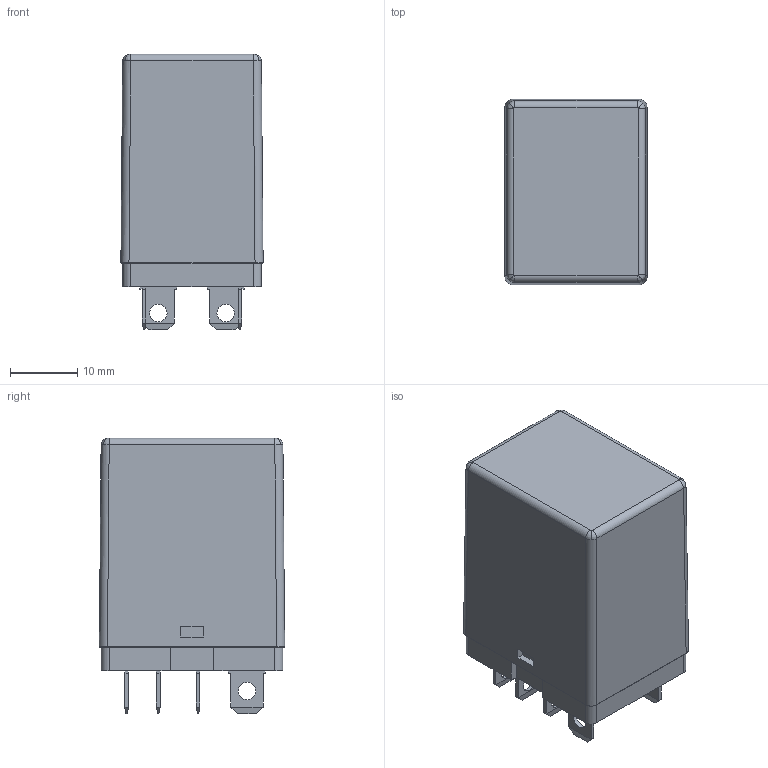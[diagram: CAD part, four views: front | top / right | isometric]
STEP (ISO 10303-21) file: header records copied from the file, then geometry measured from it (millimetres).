
FILE_DESCRIPTION(/* description */ ('STEP AP214'),/* implementation_level */ '2;1');
FILE_NAME(/* name */ 'I:\TI\Inventor\Panelen\Algemeen\Relais\Smitt relays 3D files (03-06-2021)\L2\L2.stp',/* time_stamp */ '2021-06-03T15:51:45+02:00',/* author */ ('nbinnendijk'),/* organization */ ('Mors Smitt'),/* preprocessor_version */ 'ST-DEVELOPER v18',/* originating_system */ 'Autodesk Inventor 2020',/* authorisation */ '');
FILE_SCHEMA (('AUTOMOTIVE_DESIGN { 1 0 10303 214 3 1 1 }'));
Length unit declared in the file: millimetre
Products named in the file (1): L2
Bounding box: 21.1 x 27.5 x 40.9 mm (x, y, z)
Volume: 19394.5 mm3; surface area: 4993.2 mm2
Topology: 1 solids, 2 shells, 196 faces, 508 edges, 329 vertices
Faces by surface type: plane 159, cylinder 24, bspline 13
Full cylindrical faces by diameter (mm): 2.6 x8, 5 x1, 7 x1
Entity records: 6466 total; most frequent: CARTESIAN_POINT 1439, ORIENTED_EDGE 1016, DIRECTION 938, EDGE_CURVE 508, LINE 402, VECTOR 402, VERTEX_POINT 329, AXIS2_PLACEMENT_3D 268
